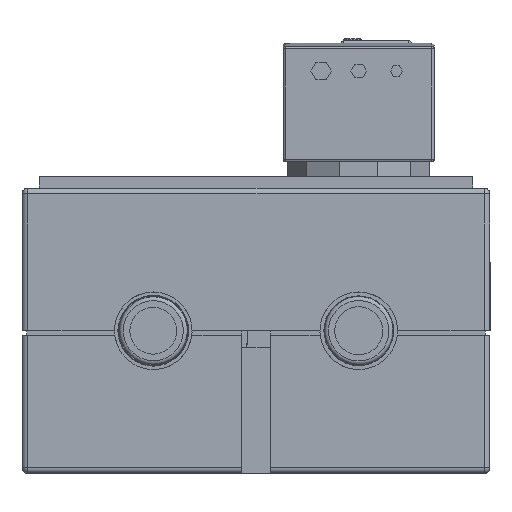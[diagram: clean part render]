
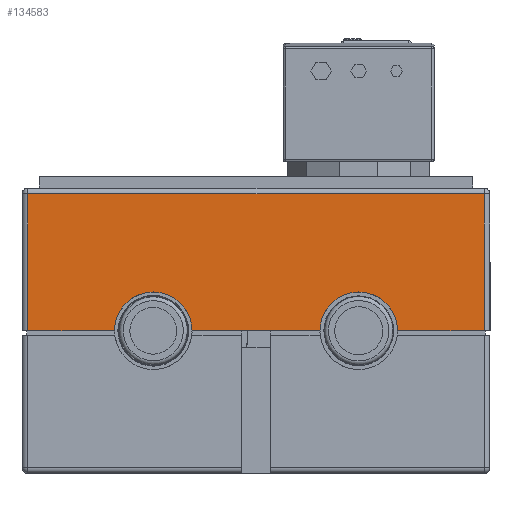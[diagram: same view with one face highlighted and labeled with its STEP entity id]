
A CAD part, left-side view. The second image highlights one B-rep face of the part: STEP entity #134583.
In plain terms, the highlighted planar face has unit normal (-1, 0, 0).
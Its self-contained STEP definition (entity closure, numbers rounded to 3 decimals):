
#131659=CARTESIAN_POINT('',(-550.7,-214.,0.));
#131660=VERTEX_POINT('',#131659);
#131667=CARTESIAN_POINT('',(-550.7,-146.,0.));
#131668=VERTEX_POINT('',#131667);
#131669=CARTESIAN_POINT('',(-550.7,-180.,0.));
#131670=DIRECTION('',(1.0,0.0,0.0));
#131671=DIRECTION('',(0.0,1.0,0.0));
#131672=AXIS2_PLACEMENT_3D('',#131669,#131670,#131671);
#131673=CIRCLE('',#131672,34.0);
#131674=EDGE_CURVE('',#131668,#131660,#131673,.T.);
#132752=CARTESIAN_POINT('',(-550.7,-34.,0.));
#132753=VERTEX_POINT('',#132752);
#132760=CARTESIAN_POINT('',(-550.7,34.,0.));
#132761=VERTEX_POINT('',#132760);
#132762=CARTESIAN_POINT('',(-550.7,0.,0.));
#132763=DIRECTION('',(1.0,0.0,0.0));
#132764=DIRECTION('',(0.0,1.0,0.0));
#132765=AXIS2_PLACEMENT_3D('',#132762,#132763,#132764);
#132766=CIRCLE('',#132765,34.0);
#132767=EDGE_CURVE('',#132761,#132753,#132766,.T.);
#132980=CARTESIAN_POINT('',(-550.7,110.,0.));
#132981=VERTEX_POINT('',#132980);
#132982=CARTESIAN_POINT('',(-550.7,34.,0.));
#132983=DIRECTION('',(0.0,1.0,0.0));
#132984=VECTOR('',#132983,76.);
#132985=LINE('',#132982,#132984);
#132986=EDGE_CURVE('',#132761,#132981,#132985,.T.);
#133346=CARTESIAN_POINT('',(-550.7,-290.,0.));
#133347=VERTEX_POINT('',#133346);
#133355=CARTESIAN_POINT('',(-550.7,-290.,0.));
#133356=DIRECTION('',(0.0,1.0,0.0));
#133357=VECTOR('',#133356,76.);
#133358=LINE('',#133355,#133357);
#133359=EDGE_CURVE('',#133347,#131660,#133358,.T.);
#134445=CARTESIAN_POINT('',(-550.7,110.,120.));
#134446=VERTEX_POINT('',#134445);
#134470=CARTESIAN_POINT('',(-550.7,-290.0,120.0));
#134471=VERTEX_POINT('',#134470);
#134515=CARTESIAN_POINT('',(-550.7,-290.,120.0));
#134516=DIRECTION('',(0.0,0.0,-1.0));
#134517=VECTOR('',#134516,120.0);
#134518=LINE('',#134515,#134517);
#134519=EDGE_CURVE('',#134471,#133347,#134518,.T.);
#134530=CARTESIAN_POINT('',(-550.7,110.,120.));
#134531=DIRECTION('',(0.0,-1.0,0.0));
#134532=VECTOR('',#134531,400.);
#134533=LINE('',#134530,#134532);
#134534=EDGE_CURVE('',#134446,#134471,#134533,.T.);
#134547=CARTESIAN_POINT('',(-550.7,110.,0.));
#134548=DIRECTION('',(0.0,0.0,1.0));
#134549=VECTOR('',#134548,120.);
#134550=LINE('',#134547,#134549);
#134551=EDGE_CURVE('',#132981,#134446,#134550,.T.);
#134563=CARTESIAN_POINT('',(-550.7,-295.,0.));
#134564=DIRECTION('',(-1.0,0.0,0.0));
#134565=DIRECTION('',(0.0,0.0,1.0));
#134566=AXIS2_PLACEMENT_3D('',#134563,#134564,#134565);
#134567=PLANE('',#134566);
#134568=ORIENTED_EDGE('',*,*,#134551,.F.);
#134569=ORIENTED_EDGE('',*,*,#132986,.F.);
#134570=ORIENTED_EDGE('',*,*,#132767,.T.);
#134571=CARTESIAN_POINT('',(-550.7,-146.,0.));
#134572=DIRECTION('',(0.0,1.0,0.0));
#134573=VECTOR('',#134572,112.);
#134574=LINE('',#134571,#134573);
#134575=EDGE_CURVE('',#131668,#132753,#134574,.T.);
#134576=ORIENTED_EDGE('',*,*,#134575,.F.);
#134577=ORIENTED_EDGE('',*,*,#131674,.T.);
#134578=ORIENTED_EDGE('',*,*,#133359,.F.);
#134579=ORIENTED_EDGE('',*,*,#134519,.F.);
#134580=ORIENTED_EDGE('',*,*,#134534,.F.);
#134581=EDGE_LOOP('',(#134568,#134569,#134570,#134576,#134577,#134578,#134579,#134580));
#134582=FACE_OUTER_BOUND('',#134581,.T.);
#134583=ADVANCED_FACE('',(#134582),#134567,.T.);
